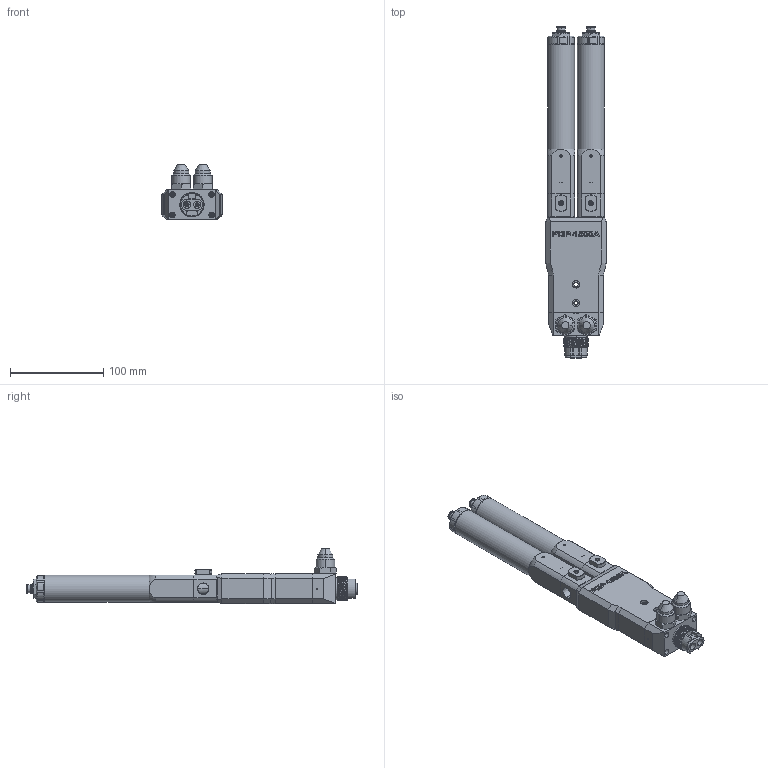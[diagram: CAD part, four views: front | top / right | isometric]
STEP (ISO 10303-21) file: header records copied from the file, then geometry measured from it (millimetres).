
FILE_DESCRIPTION (( 'STEP AP214' ), '1' );
FILE_NAME ('PDP-1500FA.STEP', '2024-10-11T12:26:30', ( '' ), ( '' ), 'SwSTEP 2.0', 'SolidWorks 2024', '' );
FILE_SCHEMA (( 'AUTOMOTIVE_DESIGN' ));
Length unit declared in the file: millimetre
Products named in the file (1): PDP-1500FA
Bounding box: 65 x 356 x 59.3 mm (x, y, z)
Volume: 533281.1 mm3; surface area: 128594.3 mm2
Topology: 12 solids, 12 shells, 1566 faces, 3964 edges, 2524 vertices
Faces by surface type: plane 772, cylinder 444, cone 317, bspline 13, torus 12, sphere 8
Full cylindrical faces by diameter (mm): 29 x2
Entity records: 54982 total; most frequent: CARTESIAN_POINT 17174, ORIENTED_EDGE 7868, DIRECTION 7818, EDGE_CURVE 3934, AXIS2_PLACEMENT_3D 2797, VERTEX_POINT 2524, LINE 2224, VECTOR 2224
